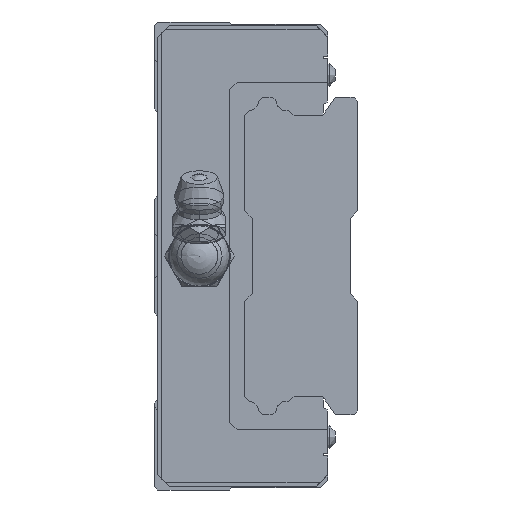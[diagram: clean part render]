
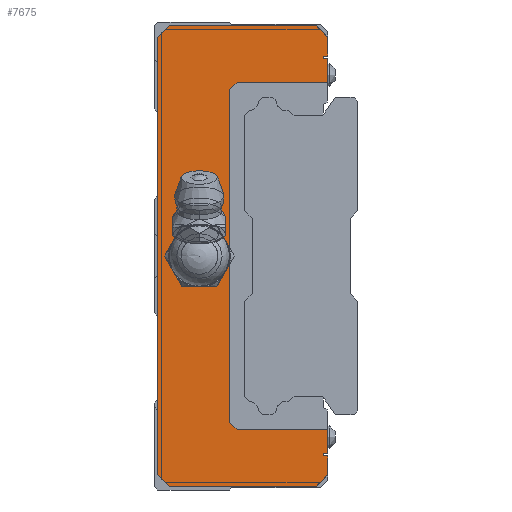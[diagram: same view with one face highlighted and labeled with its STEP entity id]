
A CAD part, left-side view. The second image highlights one B-rep face of the part: STEP entity #7675.
In plain terms, the highlighted planar face has unit normal (-1, 0, 0).
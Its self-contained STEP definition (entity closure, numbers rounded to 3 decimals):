
#124=LINE('',#11995,#536);
#139=LINE('',#12026,#551);
#146=LINE('',#12040,#558);
#150=LINE('',#12047,#562);
#158=LINE('',#12064,#570);
#161=LINE('',#12069,#573);
#180=LINE('',#12109,#592);
#181=LINE('',#12112,#593);
#182=LINE('',#12113,#594);
#183=LINE('',#12114,#595);
#184=LINE('',#12116,#596);
#185=LINE('',#12118,#597);
#186=LINE('',#12120,#598);
#187=LINE('',#12122,#599);
#188=LINE('',#12124,#600);
#189=LINE('',#12126,#601);
#190=LINE('',#12128,#602);
#191=LINE('',#12130,#603);
#192=LINE('',#12132,#604);
#193=LINE('',#12134,#605);
#194=LINE('',#12136,#606);
#195=LINE('',#12138,#607);
#536=VECTOR('',#9412,1000.);
#551=VECTOR('',#9429,1000.);
#558=VECTOR('',#9440,1000.);
#562=VECTOR('',#9446,1000.);
#570=VECTOR('',#9456,1000.);
#573=VECTOR('',#9461,1000.);
#592=VECTOR('',#9490,1000.);
#593=VECTOR('',#9491,1000.);
#594=VECTOR('',#9492,1000.);
#595=VECTOR('',#9493,1000.);
#596=VECTOR('',#9494,1000.);
#597=VECTOR('',#9495,1000.);
#598=VECTOR('',#9496,1000.);
#599=VECTOR('',#9497,1000.);
#600=VECTOR('',#9498,1000.);
#601=VECTOR('',#9499,1000.);
#602=VECTOR('',#9500,1000.);
#603=VECTOR('',#9501,1000.);
#604=VECTOR('',#9502,1000.);
#605=VECTOR('',#9503,1000.);
#606=VECTOR('',#9504,1000.);
#607=VECTOR('',#9505,1000.);
#913=PLANE('',#8259);
#1387=CIRCLE('',#8260,3.);
#2131=ORIENTED_EDGE('',*,*,#3883,.T.);
#2132=ORIENTED_EDGE('',*,*,#3884,.F.);
#2133=ORIENTED_EDGE('',*,*,#3885,.F.);
#2134=ORIENTED_EDGE('',*,*,#3852,.F.);
#2135=ORIENTED_EDGE('',*,*,#3848,.F.);
#2136=ORIENTED_EDGE('',*,*,#3841,.F.);
#2137=ORIENTED_EDGE('',*,*,#3886,.F.);
#2138=ORIENTED_EDGE('',*,*,#3826,.F.);
#2139=ORIENTED_EDGE('',*,*,#3863,.F.);
#2140=ORIENTED_EDGE('',*,*,#3860,.F.);
#2141=ORIENTED_EDGE('',*,*,#3887,.F.);
#2142=ORIENTED_EDGE('',*,*,#3888,.F.);
#2143=ORIENTED_EDGE('',*,*,#3889,.F.);
#2144=ORIENTED_EDGE('',*,*,#3890,.F.);
#2145=ORIENTED_EDGE('',*,*,#3891,.F.);
#2146=ORIENTED_EDGE('',*,*,#3892,.T.);
#2147=ORIENTED_EDGE('',*,*,#3893,.T.);
#2148=ORIENTED_EDGE('',*,*,#3894,.T.);
#2149=ORIENTED_EDGE('',*,*,#3895,.T.);
#2150=ORIENTED_EDGE('',*,*,#3896,.T.);
#2151=ORIENTED_EDGE('',*,*,#3897,.F.);
#2152=ORIENTED_EDGE('',*,*,#3898,.F.);
#2153=ORIENTED_EDGE('',*,*,#3899,.F.);
#3826=EDGE_CURVE('',#4719,#4720,#124,.T.);
#3841=EDGE_CURVE('',#4734,#4735,#139,.T.);
#3848=EDGE_CURVE('',#4735,#4740,#146,.T.);
#3852=EDGE_CURVE('',#4740,#4742,#150,.T.);
#3860=EDGE_CURVE('',#4749,#4750,#158,.T.);
#3863=EDGE_CURVE('',#4750,#4719,#161,.T.);
#3883=EDGE_CURVE('',#4766,#4766,#1387,.T.);
#3884=EDGE_CURVE('',#4767,#4768,#180,.T.);
#3885=EDGE_CURVE('',#4742,#4767,#181,.T.);
#3886=EDGE_CURVE('',#4720,#4734,#182,.T.);
#3887=EDGE_CURVE('',#4769,#4749,#183,.T.);
#3888=EDGE_CURVE('',#4770,#4769,#184,.T.);
#3889=EDGE_CURVE('',#4771,#4770,#185,.T.);
#3890=EDGE_CURVE('',#4772,#4771,#186,.T.);
#3891=EDGE_CURVE('',#4773,#4772,#187,.T.);
#3892=EDGE_CURVE('',#4773,#4774,#188,.T.);
#3893=EDGE_CURVE('',#4774,#4775,#189,.T.);
#3894=EDGE_CURVE('',#4775,#4776,#190,.T.);
#3895=EDGE_CURVE('',#4776,#4777,#191,.T.);
#3896=EDGE_CURVE('',#4777,#4778,#192,.T.);
#3897=EDGE_CURVE('',#4779,#4778,#193,.T.);
#3898=EDGE_CURVE('',#4780,#4779,#194,.T.);
#3899=EDGE_CURVE('',#4768,#4780,#195,.T.);
#4719=VERTEX_POINT('',#11994);
#4720=VERTEX_POINT('',#11996);
#4734=VERTEX_POINT('',#12025);
#4735=VERTEX_POINT('',#12027);
#4740=VERTEX_POINT('',#12041);
#4742=VERTEX_POINT('',#12048);
#4749=VERTEX_POINT('',#12063);
#4750=VERTEX_POINT('',#12065);
#4766=VERTEX_POINT('',#12108);
#4767=VERTEX_POINT('',#12110);
#4768=VERTEX_POINT('',#12111);
#4769=VERTEX_POINT('',#12115);
#4770=VERTEX_POINT('',#12117);
#4771=VERTEX_POINT('',#12119);
#4772=VERTEX_POINT('',#12121);
#4773=VERTEX_POINT('',#12123);
#4774=VERTEX_POINT('',#12125);
#4775=VERTEX_POINT('',#12127);
#4776=VERTEX_POINT('',#12129);
#4777=VERTEX_POINT('',#12131);
#4778=VERTEX_POINT('',#12133);
#4779=VERTEX_POINT('',#12135);
#4780=VERTEX_POINT('',#12137);
#5494=EDGE_LOOP('',(#2131));
#5495=EDGE_LOOP('',(#2132,#2133,#2134,#2135,#2136,#2137,#2138,#2139,#2140,
#2141,#2142,#2143,#2144,#2145,#2146,#2147,#2148,#2149,#2150,#2151,#2152,
#2153));
#6575=FACE_BOUND('',#5494,.T.);
#6576=FACE_BOUND('',#5495,.T.);
#7675=ADVANCED_FACE('',(#6575,#6576),#913,.F.);
#8259=AXIS2_PLACEMENT_3D('',#12106,#9486,#9487);
#8260=AXIS2_PLACEMENT_3D('',#12107,#9488,#9489);
#9412=DIRECTION('',(0.,0.707,0.707));
#9429=DIRECTION('',(0.,-0.707,0.707));
#9440=DIRECTION('',(0.,-1.,0.));
#9446=DIRECTION('',(0.,-0.707,-0.707));
#9456=DIRECTION('',(0.,0.707,-0.707));
#9461=DIRECTION('',(0.,1.,0.));
#9486=DIRECTION('',(1.,0.,0.));
#9487=DIRECTION('',(0.,0.,-1.));
#9488=DIRECTION('',(1.,0.,0.));
#9489=DIRECTION('',(0.,0.,-1.));
#9490=DIRECTION('',(0.,1.,0.));
#9491=DIRECTION('',(0.,0.,-1.));
#9492=DIRECTION('',(0.,0.,1.));
#9493=DIRECTION('',(0.,0.,-1.));
#9494=DIRECTION('',(0.,-1.,0.));
#9495=DIRECTION('',(0.,0.,-1.));
#9496=DIRECTION('',(0.,1.,0.));
#9497=DIRECTION('',(0.,0.,-1.));
#9498=DIRECTION('',(0.,1.,0.));
#9499=DIRECTION('',(0.,0.707,0.707));
#9500=DIRECTION('',(0.,0.,1.));
#9501=DIRECTION('',(0.,-0.707,0.707));
#9502=DIRECTION('',(0.,-1.,0.));
#9503=DIRECTION('',(0.,0.,-1.));
#9504=DIRECTION('',(0.,-1.,0.));
#9505=DIRECTION('',(0.,0.,-1.));
#11994=CARTESIAN_POINT('',(-34.9,22.,-30.5));
#11995=CARTESIAN_POINT('',(-34.9,22.,-30.5));
#11996=CARTESIAN_POINT('',(-34.9,23.5,-29.));
#12025=CARTESIAN_POINT('',(-34.9,23.5,29.));
#12026=CARTESIAN_POINT('',(-34.9,23.5,29.));
#12027=CARTESIAN_POINT('',(-34.9,22.,30.5));
#12040=CARTESIAN_POINT('',(-34.9,24.,30.5));
#12041=CARTESIAN_POINT('',(-34.9,2.5,30.5));
#12047=CARTESIAN_POINT('',(-34.9,2.5,30.5));
#12048=CARTESIAN_POINT('',(-34.9,1.,29.));
#12063=CARTESIAN_POINT('',(-34.9,1.,-29.));
#12064=CARTESIAN_POINT('',(-34.9,1.,-29.));
#12065=CARTESIAN_POINT('',(-34.9,2.5,-30.5));
#12069=CARTESIAN_POINT('',(-34.9,0.,-30.5));
#12106=CARTESIAN_POINT('',(-34.9,0.,0.));
#12107=CARTESIAN_POINT('',(-34.9,18.,0.));
#12108=CARTESIAN_POINT('',(-34.9,18.,-3.));
#12109=CARTESIAN_POINT('',(-34.9,0.,26.485));
#12110=CARTESIAN_POINT('',(-34.9,1.,26.485));
#12111=CARTESIAN_POINT('',(-34.9,1.6,26.485));
#12112=CARTESIAN_POINT('',(-34.9,1.,29.7));
#12113=CARTESIAN_POINT('',(-34.9,23.5,8.));
#12114=CARTESIAN_POINT('',(-34.9,1.,29.7));
#12115=CARTESIAN_POINT('',(-34.9,1.,-26.485));
#12116=CARTESIAN_POINT('',(-34.9,0.,-26.485));
#12117=CARTESIAN_POINT('',(-34.9,1.6,-26.485));
#12118=CARTESIAN_POINT('',(-34.9,1.6,0.));
#12119=CARTESIAN_POINT('',(-34.9,1.6,-26.2));
#12120=CARTESIAN_POINT('',(-34.9,0.,-26.2));
#12121=CARTESIAN_POINT('',(-34.9,1.,-26.2));
#12122=CARTESIAN_POINT('',(-34.9,1.,29.7));
#12123=CARTESIAN_POINT('',(-34.9,1.,-23.));
#12124=CARTESIAN_POINT('',(-34.9,1.,-23.));
#12125=CARTESIAN_POINT('',(-34.9,13.,-23.));
#12126=CARTESIAN_POINT('',(-34.9,13.,-23.));
#12127=CARTESIAN_POINT('',(-34.9,14.,-22.));
#12128=CARTESIAN_POINT('',(-34.9,14.,-22.));
#12129=CARTESIAN_POINT('',(-34.9,14.,22.));
#12130=CARTESIAN_POINT('',(-34.9,14.,22.));
#12131=CARTESIAN_POINT('',(-34.9,13.,23.));
#12132=CARTESIAN_POINT('',(-34.9,13.,23.));
#12133=CARTESIAN_POINT('',(-34.9,1.,23.));
#12134=CARTESIAN_POINT('',(-34.9,1.,29.7));
#12135=CARTESIAN_POINT('',(-34.9,1.,26.2));
#12136=CARTESIAN_POINT('',(-34.9,0.,26.2));
#12137=CARTESIAN_POINT('',(-34.9,1.6,26.2));
#12138=CARTESIAN_POINT('',(-34.9,1.6,0.));
